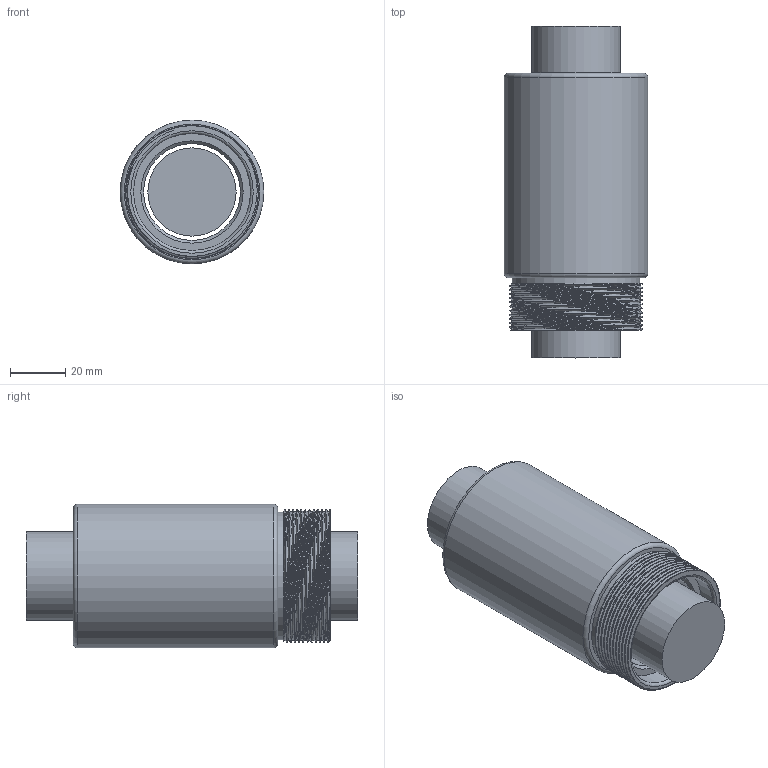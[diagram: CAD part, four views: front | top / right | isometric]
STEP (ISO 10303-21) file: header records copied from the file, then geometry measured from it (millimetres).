
FILE_DESCRIPTION(/* description */ (''),/* implementation_level */ '2;1');
FILE_NAME(/* name */ '3210.prt.step',/* time_stamp */ '2008-12-05T09:42:38+08:00',/* author */ (''),/* organization */ (''),/* preprocessor_version */ 'ST-DEVELOPER v11',/* originating_system */ 'SIEMENS UGS NX 6.0',/* authorisation */ '');
FILE_SCHEMA (('AUTOMOTIVE_DESIGN { 1 0 10303 214 1 1 1 1 }'));
Length unit declared in the file: millimetre
Products named in the file (1): 3210
Bounding box: 52 x 120 x 52 mm (x, y, z)
Volume: 189887.6 mm3; surface area: 42518.2 mm2
Topology: 2 solids, 2 shells, 24 faces, 46 edges, 30 vertices
Faces by surface type: cylinder 8, plane 8, torus 4, bspline 2, cone 2
Full cylindrical faces by diameter (mm): 31.95 x1, 35 x1, 42.3 x2, 46 x1, 52 x1
Entity records: 2438 total; most frequent: CARTESIAN_POINT 1987, DIRECTION 90, ORIENTED_EDGE 60, AXIS2_PLACEMENT_3D 45, EDGE_LOOP 42, FACE_BOUND 36, EDGE_CURVE 30, VERTEX_POINT 26
